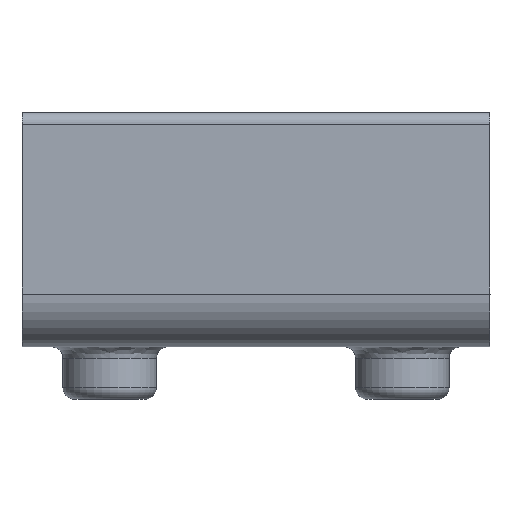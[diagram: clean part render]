
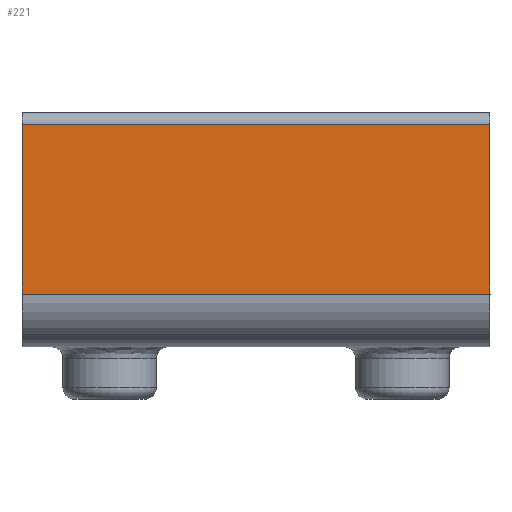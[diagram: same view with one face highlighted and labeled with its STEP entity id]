
A CAD part, left-side view. The second image highlights one B-rep face of the part: STEP entity #221.
In plain terms, the highlighted planar face has unit normal (-1, 0, 0).
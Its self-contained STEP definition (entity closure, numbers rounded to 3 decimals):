
#25 = CARTESIAN_POINT ( 'NONE',  ( -21., 20., 5.467 ) ) ;
#45 = CARTESIAN_POINT ( 'NONE',  ( -21., 20., 19. ) ) ;
#83 = VECTOR ( 'NONE', #2343, 1000. ) ;
#178 = EDGE_CURVE ( 'NONE', #649, #879, #2954, .T. ) ;
#181 = ORIENTED_EDGE ( 'NONE', *, *, #2835, .F. ) ;
#221 = ADVANCED_FACE ( 'NONE', ( #2266 ), #1749, .T. ) ;
#236 = DIRECTION ( 'NONE',  ( 0., 1., 0. ) ) ;
#249 = LINE ( 'NONE', #25, #1426 ) ;
#323 = VERTEX_POINT ( 'NONE', #1299 ) ;
#377 = ORIENTED_EDGE ( 'NONE', *, *, #1048, .T. ) ;
#492 = LINE ( 'NONE', #2849, #83 ) ;
#649 = VERTEX_POINT ( 'NONE', #2019 ) ;
#710 = DIRECTION ( 'NONE',  ( 0., 0., -1. ) ) ;
#760 = ORIENTED_EDGE ( 'NONE', *, *, #1088, .T. ) ;
#815 = AXIS2_PLACEMENT_3D ( 'NONE', #2468, #1525, #2453 ) ;
#825 = DIRECTION ( 'NONE',  ( 0., 0., -1. ) ) ;
#879 = VERTEX_POINT ( 'NONE', #2273 ) ;
#940 = EDGE_LOOP ( 'NONE', ( #760, #181, #1367, #377 ) ) ;
#1048 = EDGE_CURVE ( 'NONE', #649, #2912, #2364, .T. ) ;
#1088 = EDGE_CURVE ( 'NONE', #2912, #323, #249, .T. ) ;
#1299 = CARTESIAN_POINT ( 'NONE',  ( -21., 20., 4.5 ) ) ;
#1323 = VECTOR ( 'NONE', #236, 1000. ) ;
#1367 = ORIENTED_EDGE ( 'NONE', *, *, #178, .F. ) ;
#1426 = VECTOR ( 'NONE', #710, 1000. ) ;
#1525 = DIRECTION ( 'NONE',  ( -1., 0., 0. ) ) ;
#1749 = PLANE ( 'NONE',  #815 ) ;
#1791 = CARTESIAN_POINT ( 'NONE',  ( -21., -20., 5.467 ) ) ;
#2019 = CARTESIAN_POINT ( 'NONE',  ( -21., -20., 19. ) ) ;
#2266 = FACE_OUTER_BOUND ( 'NONE', #940, .T. ) ;
#2273 = CARTESIAN_POINT ( 'NONE',  ( -21., -20., 4.5 ) ) ;
#2343 = DIRECTION ( 'NONE',  ( 0., 1., 0. ) ) ;
#2364 = LINE ( 'NONE', #2846, #1323 ) ;
#2453 = DIRECTION ( 'NONE',  ( 0., 0., 1. ) ) ;
#2468 = CARTESIAN_POINT ( 'NONE',  ( -21., 20., 4.5 ) ) ;
#2761 = VECTOR ( 'NONE', #825, 1000. ) ;
#2835 = EDGE_CURVE ( 'NONE', #879, #323, #492, .T. ) ;
#2846 = CARTESIAN_POINT ( 'NONE',  ( -21., 20., 19. ) ) ;
#2849 = CARTESIAN_POINT ( 'NONE',  ( -21., 20., 4.5 ) ) ;
#2912 = VERTEX_POINT ( 'NONE', #45 ) ;
#2954 = LINE ( 'NONE', #1791, #2761 ) ;
